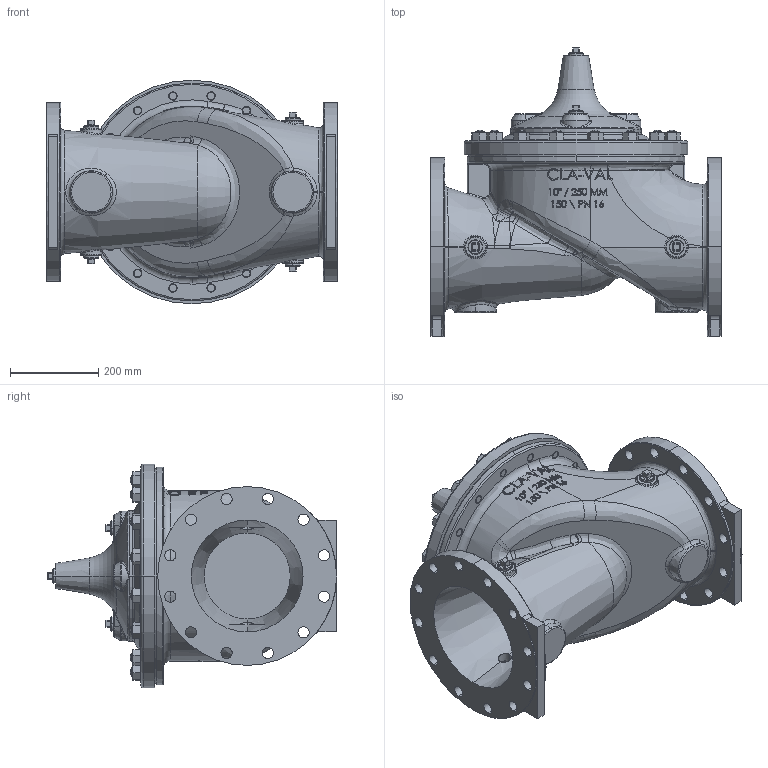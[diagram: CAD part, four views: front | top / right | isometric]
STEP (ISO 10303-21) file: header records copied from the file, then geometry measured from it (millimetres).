
FILE_DESCRIPTION (( 'STEP AP203' ), '1' );
FILE_NAME ('10in 100-20 150AG.STEP', '2020-01-21T23:24:07', ( '' ), ( '' ), 'SwSTEP 2.0', 'SolidWorks 2019', '' );
FILE_SCHEMA (( 'CONFIG_CONTROL_DESIGN' ));
Length unit declared in the file: inch
Products named in the file (6): 10in 100-20 150AG; 1.0 NPT SQ HD PIPE PLUG (67660)_STEEL CAD PLT; STUD .750-10 UNC (42883)_3  37048-02C; 8in Cover 100-01_DI OR ALUM 2 bosses drld; Hexnut .750-10 UNC (67811)_NUT, HEX HEAVY  67811-08D; 10in Body ReGl150A STD (BLUE)_150 FLAT FACE
Assembly tree (41 placements, depth 2):
  10in 100-20 150AG
    10in Body ReGl150A STD (BLUE)_150 FLAT FACE
    8in Cover 100-01_DI OR ALUM 2 bosses drld
    STUD .750-10 UNC (42883)_3  37048-02C  x16
    Hexnut .750-10 UNC (67811)_NUT, HEX HEAVY  67811-08D  x16
    1.0 NPT SQ HD PIPE PLUG (67660)_STEEL CAD PLT  x7
Bounding box: 660.4 x 657.25 x 508 mm (x, y, z)
Volume: 57650501.7 mm3; surface area: 2449132.3 mm2
Topology: 42 solids, 43 shells, 1653 faces, 3891 edges, 2343 vertices
Faces by surface type: plane 463, cylinder 404, cone 362, bspline 269, torus 89, sphere 66
Entity records: 52663 total; most frequent: CARTESIAN_POINT 28262, ORIENTED_EDGE 5056, DIRECTION 4336, EDGE_CURVE 2528, AXIS2_PLACEMENT_3D 1738, VERTEX_POINT 1572, EDGE_LOOP 1196, FACE_OUTER_BOUND 1020
